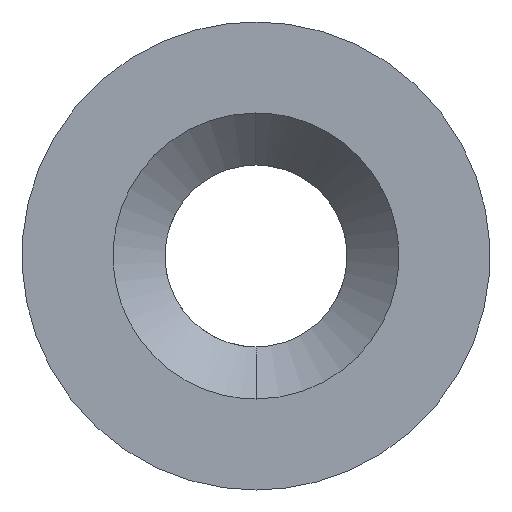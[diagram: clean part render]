
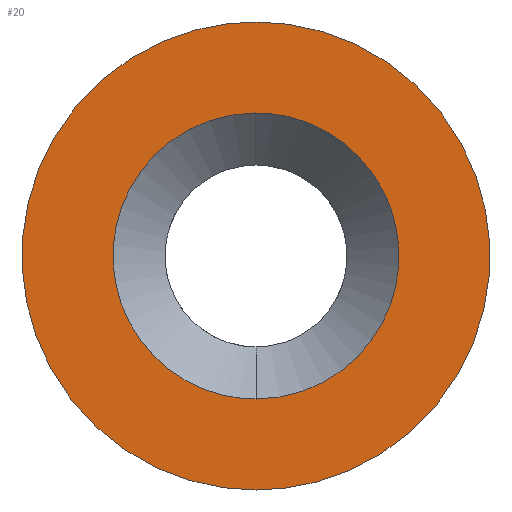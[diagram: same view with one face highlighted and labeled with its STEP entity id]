
A CAD part, left-side view. The second image highlights one B-rep face of the part: STEP entity #20.
In plain terms, the highlighted planar face has unit normal (-1, 0, 0).
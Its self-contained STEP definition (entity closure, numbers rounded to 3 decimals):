
#15=FACE_BOUND('',#53,.T.);
#20=ADVANCED_FACE('',(#36,#15),#233,.T.);
#36=FACE_OUTER_BOUND('',#52,.T.);
#52=EDGE_LOOP('',(#77,#78));
#53=EDGE_LOOP('',(#79,#80));
#77=ORIENTED_EDGE('',*,*,#162,.F.);
#78=ORIENTED_EDGE('',*,*,#139,.F.);
#79=ORIENTED_EDGE('',*,*,#170,.F.);
#80=ORIENTED_EDGE('',*,*,#148,.F.);
#139=EDGE_CURVE('',#209,#223,#182,.T.);
#148=EDGE_CURVE('',#213,#228,#190,.T.);
#162=EDGE_CURVE('',#223,#209,#198,.T.);
#170=EDGE_CURVE('',#228,#213,#205,.T.);
#182=(
BOUNDED_CURVE()
B_SPLINE_CURVE(2,(#3695,#3696,#3697,#3698,#3699),.UNSPECIFIED.,.F.,.F.)
B_SPLINE_CURVE_WITH_KNOTS((3,2,3),(0.,14.137,28.274),
 .UNSPECIFIED.)
CURVE()
GEOMETRIC_REPRESENTATION_ITEM()
RATIONAL_B_SPLINE_CURVE((1.,0.707,1.,0.707,1.))
REPRESENTATION_ITEM('')
);
#190=(
BOUNDED_CURVE()
B_SPLINE_CURVE(2,(#3728,#3729,#3730,#3731,#3732),.UNSPECIFIED.,.F.,.F.)
B_SPLINE_CURVE_WITH_KNOTS((3,2,3),(0.,8.639,17.278),
 .UNSPECIFIED.)
CURVE()
GEOMETRIC_REPRESENTATION_ITEM()
RATIONAL_B_SPLINE_CURVE((1.,0.707,1.,0.707,1.))
REPRESENTATION_ITEM('')
);
#198=(
BOUNDED_CURVE()
B_SPLINE_CURVE(2,(#4738,#4739,#4740,#4741,#4742),.UNSPECIFIED.,.F.,.F.)
B_SPLINE_CURVE_WITH_KNOTS((3,2,3),(28.274,42.412,56.549),
 .UNSPECIFIED.)
CURVE()
GEOMETRIC_REPRESENTATION_ITEM()
RATIONAL_B_SPLINE_CURVE((1.,0.707,1.,0.707,1.))
REPRESENTATION_ITEM('')
);
#205=(
BOUNDED_CURVE()
B_SPLINE_CURVE(2,(#4769,#4770,#4771,#4772,#4773),.UNSPECIFIED.,.F.,.F.)
B_SPLINE_CURVE_WITH_KNOTS((3,2,3),(17.278,25.917,34.557),
 .UNSPECIFIED.)
CURVE()
GEOMETRIC_REPRESENTATION_ITEM()
RATIONAL_B_SPLINE_CURVE((1.,0.707,1.,0.707,1.))
REPRESENTATION_ITEM('')
);
#209=VERTEX_POINT('',#3673);
#213=VERTEX_POINT('',#3677);
#223=VERTEX_POINT('',#3687);
#228=VERTEX_POINT('',#3692);
#233=PLANE('',#267);
#267=AXIS2_PLACEMENT_3D('',#301,#274,$);
#274=DIRECTION('',(-1.,0.,0.));
#301=CARTESIAN_POINT('',(-4.,-11.25,11.25));
#3673=CARTESIAN_POINT('',(-4.,0.,-9.));
#3677=CARTESIAN_POINT('',(-4.,0.,-5.5));
#3687=CARTESIAN_POINT('',(-4.,0.,9.));
#3692=CARTESIAN_POINT('',(-4.,0.,5.5));
#3695=CARTESIAN_POINT('',(-4.,0.,-9.));
#3696=CARTESIAN_POINT('',(-4.,9.,-9.));
#3697=CARTESIAN_POINT('',(-4.,9.,0.));
#3698=CARTESIAN_POINT('',(-4.,9.,9.));
#3699=CARTESIAN_POINT('',(-4.,0.,9.));
#3728=CARTESIAN_POINT('',(-4.,0.,-5.5));
#3729=CARTESIAN_POINT('',(-4.,-5.5,-5.5));
#3730=CARTESIAN_POINT('',(-4.,-5.5,0.));
#3731=CARTESIAN_POINT('',(-4.,-5.5,5.5));
#3732=CARTESIAN_POINT('',(-4.,0.,5.5));
#4738=CARTESIAN_POINT('',(-4.,0.,9.));
#4739=CARTESIAN_POINT('',(-4.,-9.,9.));
#4740=CARTESIAN_POINT('',(-4.,-9.,0.));
#4741=CARTESIAN_POINT('',(-4.,-9.,-9.));
#4742=CARTESIAN_POINT('',(-4.,0.,-9.));
#4769=CARTESIAN_POINT('',(-4.,0.,5.5));
#4770=CARTESIAN_POINT('',(-4.,5.5,5.5));
#4771=CARTESIAN_POINT('',(-4.,5.5,0.));
#4772=CARTESIAN_POINT('',(-4.,5.5,-5.5));
#4773=CARTESIAN_POINT('',(-4.,0.,-5.5));
